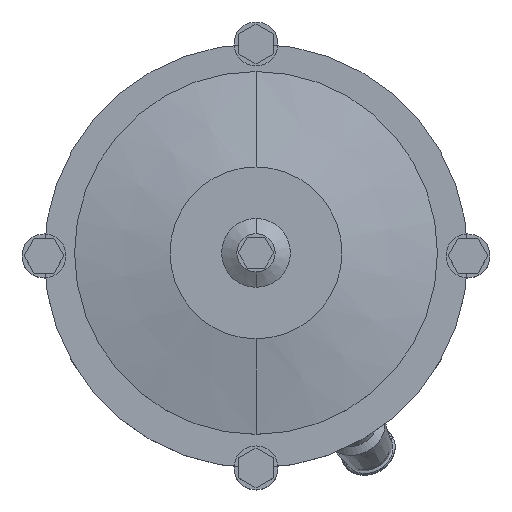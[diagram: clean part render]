
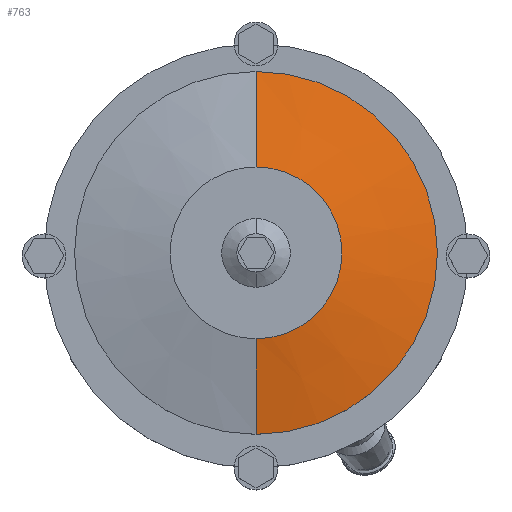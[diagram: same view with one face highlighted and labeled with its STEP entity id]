
A CAD part, top view. The second image highlights one B-rep face of the part: STEP entity #763.
In plain terms, the highlighted conical face has half-angle 78.69 degrees and reference radius 70 mm.
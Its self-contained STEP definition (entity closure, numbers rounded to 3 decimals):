
#763=ADVANCED_FACE('',(#1428),#1429,.T.);
#1428=FACE_OUTER_BOUND('',#2272,.T.);
#1429=CONICAL_SURFACE('',#2273,70.0,1.373);
#2272=EDGE_LOOP('',(#3265,#3266,#3267,#3268));
#2273=AXIS2_PLACEMENT_3D('',#3269,#3270,#3271);
#3265=ORIENTED_EDGE('',*,*,#4550,.F.);
#3266=ORIENTED_EDGE('',*,*,#4418,.F.);
#3267=ORIENTED_EDGE('',*,*,#4551,.F.);
#3268=ORIENTED_EDGE('',*,*,#4552,.F.);
#3269=CARTESIAN_POINT('',(0.0,0.,1035.0));
#3270=DIRECTION('',(-0.0,0.,-1.0));
#3271=DIRECTION('',(0.0,-1.0,0.));
#4418=EDGE_CURVE('',#5150,#5149,#5152,.T.);
#4550=EDGE_CURVE('',#5149,#5344,#5345,.T.);
#4551=EDGE_CURVE('',#5346,#5150,#5347,.T.);
#4552=EDGE_CURVE('',#5344,#5346,#5348,.T.);
#5149=VERTEX_POINT('',#6088);
#5150=VERTEX_POINT('',#6089);
#5152=CIRCLE('',#6091,95.0);
#5344=VERTEX_POINT('',#6338);
#5345=LINE('',#6339,#6340);
#5346=VERTEX_POINT('',#6341);
#5347=LINE('',#6342,#6343);
#5348=CIRCLE('',#6344,45.0);
#6088=CARTESIAN_POINT('',(0.0,-95.0,1030.0));
#6089=CARTESIAN_POINT('',(0.,95.0,1030.0));
#6091=AXIS2_PLACEMENT_3D('',#6985,#6986,#6987);
#6338=CARTESIAN_POINT('',(0.0,-45.0,1040.0));
#6339=CARTESIAN_POINT('',(0.,-70.0,1035.0));
#6340=VECTOR('',#7145,1.0);
#6341=CARTESIAN_POINT('',(0.,45.0,1040.0));
#6342=CARTESIAN_POINT('',(0.,70.0,1035.0));
#6343=VECTOR('',#7146,1.0);
#6344=AXIS2_PLACEMENT_3D('',#7147,#7148,#7149);
#6985=CARTESIAN_POINT('',(0.0,0.0,1030.0));
#6986=DIRECTION('',(0.0,0.,-1.0));
#6987=DIRECTION('',(0.0,-1.0,0.));
#7145=DIRECTION('',(0.,0.981,0.196));
#7146=DIRECTION('',(0.,0.981,-0.196));
#7147=CARTESIAN_POINT('',(0.0,0.,1040.0));
#7148=DIRECTION('',(0.0,0.,1.0));
#7149=DIRECTION('',(0.0,-1.0,0.));
